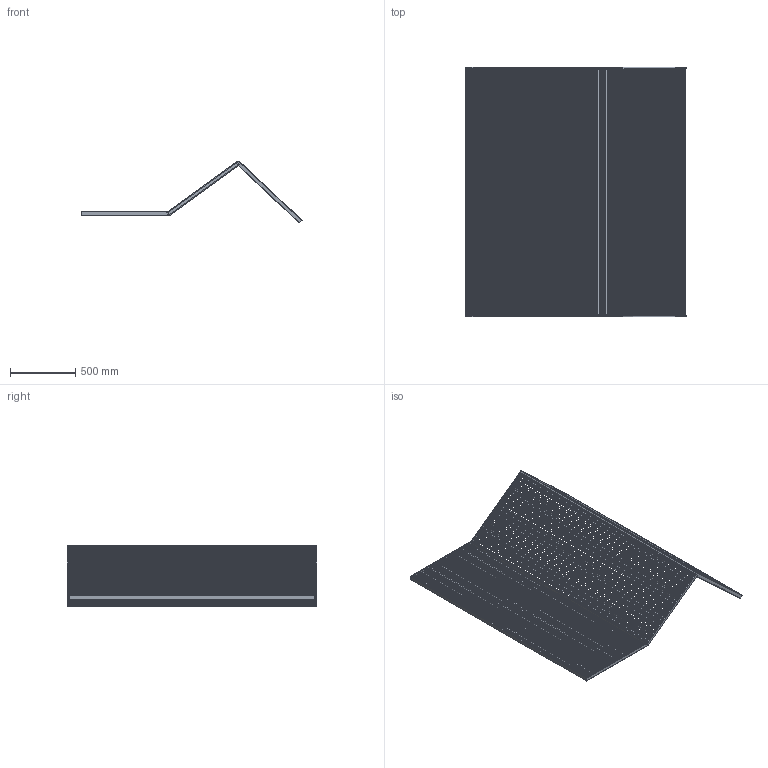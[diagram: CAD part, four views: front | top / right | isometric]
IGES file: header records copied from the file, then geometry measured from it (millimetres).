
Start section: SolidWorks IGES file using analytic representation for surfaces
Global section: file name: \\192.168.0.53\Reserch Development\SITO WEB\2024\FFG26A~6\Prodotti\3D\OC00001303 - Millerighe - peso leggero.IGS; native system: SolidWorks 2025; preprocessor: SolidWorks 2025; author: lauraa; date: 260130.164641; units: millimetre
Bounding box: 1692.91 x 1920 x 476.85 mm (x, y, z)
Surface area: 6933444 mm2 (no closed solid volume)
Topology: 0 solids, 0 shells, 480 faces, 14672 edges, 14672 vertices
Faces by surface type: revolution 260, bspline 220
